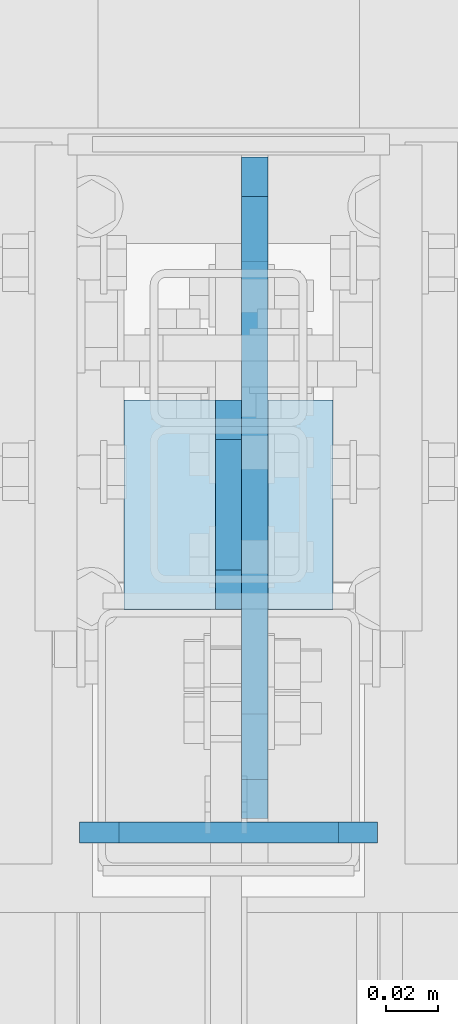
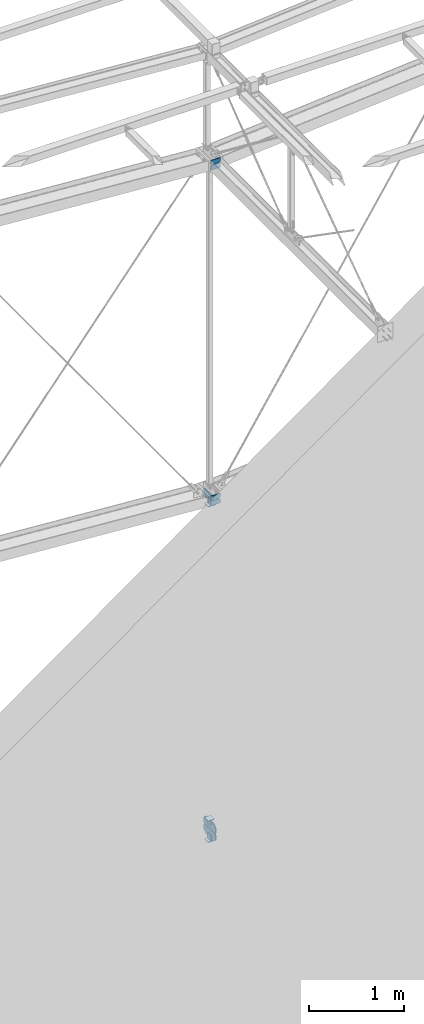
# One storey, part 135 of 271: 13 plates, 5 elements without a shape of their own.
"""IFC2X3 building model written with IfcOpenShell, lengths in millimetres."""

from ifc_helpers import new_model, si_unit, frame, origin_with_axes, place, context, subcontext, project, spatial, polyline, outline, extrude, material, type_object, element, aggregate, save


model = new_model("IFC2X3")

# Units and contexts
model_context = context("Model", 3, precision=1e-05, world=origin_with_axes())
body_context = subcontext(model_context, "Body", "Model", "MODEL_VIEW")
ifc_project = project(units=[si_unit("LENGTHUNIT", "METRE", prefix="MILLI"), si_unit("AREAUNIT", "SQUARE_METRE"), si_unit("VOLUMEUNIT", "CUBIC_METRE"), si_unit("MASSUNIT", "GRAM", prefix="KILO"), si_unit("TIMEUNIT", "SECOND"), si_unit("PLANEANGLEUNIT", "RADIAN"), si_unit("SOLIDANGLEUNIT", "STERADIAN"), si_unit("THERMODYNAMICTEMPERATUREUNIT", "DEGREE_CELSIUS"), si_unit("LUMINOUSINTENSITYUNIT", "LUMEN")], contexts=[model_context])

# Site, building, storey
site_placement = place(None, origin_with_axes())
site = spatial("IfcSite", under=ifc_project, at=site_placement, Name="Undefined", CompositionType="ELEMENT")
building_placement = place(site_placement, origin_with_axes())
building = spatial("IfcBuilding", under=site, at=building_placement, Name="Undefined", CompositionType="ELEMENT")
storey_placement = place(building_placement, origin_with_axes())
storey = spatial("IfcBuildingStorey", under=building, at=storey_placement, Name="Undefined", CompositionType="ELEMENT", Elevation=0.0)

# Assembly, plates
assembly_1_placement = place(storey_placement, origin_with_axes())
assembly_1 = element("IfcElementAssembly", 1, at=assembly_1_placement, inside=storey, AssemblyPlace="NOTDEFINED", PredefinedType="RIGID_FRAME")
ifc_material = material(Name="STEEL/S355JR")
plate_type_1 = type_object("IfcPlateType", Name="BL10*70", PredefinedType="NOTDEFINED")
plate_1_placement = place(assembly_1_placement, frame((6348.37568736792, 3664.92439872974, 14246.5999999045), z_axis=(-1.0, 0.0, 1.38777878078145e-17), x_axis=(0.0, 0.707106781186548, 0.707106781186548)))
plate_1 = element("IfcPlate", 2, at=plate_1_placement, type_object=plate_type_1, material=ifc_material, Name="BLACHA", ObjectType="BL10*70", context=body_context, shape_type="SweptSolid", body=[
    extrude(outline(polyline([(0.0, 0.0), (21.2132034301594, 1.09139364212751e-11), (56.5685424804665, 35.3553390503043), (56.568542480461, 56.5685424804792), (17.6776695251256, 95.4594192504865), (-38.890872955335, 38.8908729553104), (0.0, 0.0)])), frame((0.0, 0.0, -5.0), z_axis=(0.0, 0.0, 1.0), x_axis=(1.0, 0.0, 0.0)), (0.0, 0.0, 1.0), 10.0),
])
plate_2_placement = place(assembly_1_placement, frame((6348.37568736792, 3744.92439872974, 10082.0999999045), z_axis=(-1.0, 0.0, 1.38777878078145e-17), x_axis=(0.0, -0.707106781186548, -0.707106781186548)))
plate_2 = element("IfcPlate", 3, at=plate_2_placement, type_object=plate_type_1, material=ifc_material, Name="BLACHA", ObjectType="BL10*70", context=body_context, shape_type="SweptSolid", body=[
    extrude(outline(polyline([(0.0, 0.0), (21.2132034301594, 1.09139364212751e-11), (56.5685424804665, 35.3553390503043), (56.568542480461, 56.5685424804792), (17.6776695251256, 95.4594192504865), (-38.890872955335, 38.8908729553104), (0.0, 0.0)])), frame((0.0, 0.0, -5.0), z_axis=(0.0, 0.0, 1.0), x_axis=(1.0, 0.0, 0.0)), (0.0, 0.0, 1.0), 10.0),
])

# Assembly, plate
assembly_2_placement = place(storey_placement, origin_with_axes())
assembly_2 = element("IfcElementAssembly", 4, at=assembly_2_placement, inside=storey, AssemblyPlace="NOTDEFINED", PredefinedType="RIGID_FRAME")
plate_3_placement = place(assembly_2_placement, frame((6348.37568736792, 3664.92439872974, 9926.59999990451), z_axis=(-1.0, 0.0, 1.38777878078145e-17), x_axis=(0.0, 0.707106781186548, 0.707106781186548)))
plate_3 = element("IfcPlate", 5, at=plate_3_placement, type_object=plate_type_1, material=ifc_material, Name="BLACHA", ObjectType="BL10*70", context=body_context, shape_type="SweptSolid", body=[
    extrude(outline(polyline([(0.0, 0.0), (21.2132034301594, 1.09139364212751e-11), (56.5685424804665, 35.3553390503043), (56.568542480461, 56.5685424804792), (17.6776695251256, 95.4594192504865), (-38.890872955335, 38.8908729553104), (0.0, 0.0)])), frame((0.0, 0.0, -5.0), z_axis=(0.0, 0.0, 1.0), x_axis=(1.0, 0.0, 0.0)), (0.0, 0.0, 1.0), 10.0),
])

# Plate
plate_type_2 = type_object("IfcPlateType", Name="BL8*80", PredefinedType="NOTDEFINED")
plate_4_placement = place(assembly_1_placement, frame((6388.37568736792, 3664.92439872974, 14187.5999999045), z_axis=(0.0, 0.0, 1.0), x_axis=(0.0, 1.0, 0.0)))
plate_4 = element("IfcPlate", 6, at=plate_4_placement, type_object=plate_type_2, material=ifc_material, Name="BLACHA", ObjectType="BL8*80", context=body_context, shape_type="SweptSolid", body=[
    extrude(outline(polyline([(0.0, 0.0), (80.0, 0.0), (80.0, 80.0), (0.0, 80.0), (0.0, 0.0)])), frame((0.0, 0.0, -4.0), z_axis=(0.0, 0.0, 1.0), x_axis=(1.0, 0.0, 0.0)), (0.0, 0.0, 1.0), 8.0),
])

plate_5_placement = place(assembly_1_placement, frame((6388.37568736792, 3744.92439872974, 10141.0999999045), z_axis=(0.0, 0.0, -1.0), x_axis=(0.0, -1.0, 0.0)))
plate_5 = element("IfcPlate", 7, at=plate_5_placement, type_object=plate_type_2, material=ifc_material, Name="BLACHA", ObjectType="BL8*80", context=body_context, shape_type="SweptSolid", body=[
    extrude(outline(polyline([(0.0, 0.0), (80.0, 0.0), (80.0, 80.0), (0.0, 80.0), (0.0, 0.0)])), frame((0.0, 0.0, -4.0), z_axis=(0.0, 0.0, 1.0), x_axis=(1.0, 0.0, 0.0)), (0.0, 0.0, 1.0), 8.0),
])

aggregate(assembly_1, [plate_4, plate_1, plate_5, plate_2])

plate_6_placement = place(assembly_2_placement, frame((6388.37568736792, 3664.92439872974, 9867.59999990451), z_axis=(0.0, 0.0, 1.0), x_axis=(0.0, 1.0, 0.0)))
plate_6 = element("IfcPlate", 8, at=plate_6_placement, type_object=plate_type_2, material=ifc_material, Name="BLACHA", ObjectType="BL8*80", context=body_context, shape_type="SweptSolid", body=[
    extrude(outline(polyline([(0.0, 0.0), (80.0, 0.0), (80.0, 80.0), (0.0, 80.0), (0.0, 0.0)])), frame((0.0, 0.0, -4.0), z_axis=(0.0, 0.0, 1.0), x_axis=(1.0, 0.0, 0.0)), (0.0, 0.0, 1.0), 8.0),
])

aggregate(assembly_2, [plate_6, plate_3])

# Assembly, plate
assembly_3_placement = place(storey_placement, origin_with_axes())
assembly_3 = element("IfcElementAssembly", 9, at=assembly_3_placement, inside=storey, AssemblyPlace="NOTDEFINED", PredefinedType="RIGID_FRAME")
plate_type_3 = type_object("IfcPlateType", Name="BL10*110", PredefinedType="NOTDEFINED")
plate_7_placement = place(assembly_3_placement, frame((6358.37568736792, 3584.92439872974, 14321.5999999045), z_axis=(-1.0, 0.0, 1.38777878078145e-17), x_axis=(0.0, 1.0, 0.0)))
plate_7 = element("IfcPlate", 10, at=plate_7_placement, type_object=plate_type_3, material=ifc_material, Name="BLACHA", ObjectType="BL10*110", context=body_context, shape_type="SweptSolid", body=[
    extrude(outline(polyline([(0.0, 15.0), (15.0, -1.59872115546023e-14), (238.0, -1.4210854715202e-14), (253.0, 15.0), (253.0, 70.0), (213.0, 110.0), (40.0, 110.0), (0.0, 70.0), (0.0, 15.0)])), frame((0.0, 0.0, -5.0), z_axis=(0.0, 0.0, 1.0), x_axis=(1.0, 0.0, 0.0)), (0.0, 0.0, 1.0), 10.0),
])

# Assembly, plates
assembly_4_placement = place(storey_placement, origin_with_axes())
assembly_4 = element("IfcElementAssembly", 11, at=assembly_4_placement, inside=storey, AssemblyPlace="NOTDEFINED", PredefinedType="RIGID_FRAME")
plate_8_placement = place(assembly_4_placement, frame((6358.37568736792, 3837.92439872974, 10007.0999999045), z_axis=(-1.0, 0.0, 1.38777878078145e-17), x_axis=(0.0, -1.0, 0.0)))
plate_8 = element("IfcPlate", 12, at=plate_8_placement, type_object=plate_type_3, material=ifc_material, Name="BLACHA", ObjectType="BL10*110", context=body_context, shape_type="SweptSolid", body=[
    extrude(outline(polyline([(0.0, 15.0), (15.0, -1.59872115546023e-14), (238.0, -1.4210854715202e-14), (253.0, 15.0), (253.0, 70.0), (213.0, 110.0), (40.0, 110.0), (0.0, 70.0), (0.0, 15.0)])), frame((0.0, 0.0, -5.0), z_axis=(0.0, 0.0, 1.0), x_axis=(1.0, 0.0, 0.0)), (0.0, 0.0, 1.0), 10.0),
])
plate_9_placement = place(assembly_4_placement, frame((6358.37568736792, 3584.92439872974, 10001.5999999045), z_axis=(-1.0, 0.0, 1.38777878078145e-17), x_axis=(0.0, 1.0, 0.0)))
plate_9 = element("IfcPlate", 13, at=plate_9_placement, type_object=plate_type_3, material=ifc_material, Name="BLACHA", ObjectType="BL10*110", context=body_context, shape_type="SweptSolid", body=[
    extrude(outline(polyline([(0.0, 15.0), (15.0, -1.59872115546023e-14), (238.0, -1.4210854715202e-14), (253.0, 15.0), (253.0, 70.0), (213.0, 110.0), (40.0, 110.0), (0.0, 70.0), (0.0, 15.0)])), frame((0.0, 0.0, -5.0), z_axis=(0.0, 0.0, 1.0), x_axis=(1.0, 0.0, 0.0)), (0.0, 0.0, 1.0), 10.0),
])
aggregate(assembly_4, [plate_8, plate_9])

assembly_5_placement = place(storey_placement, origin_with_axes())
assembly_5 = element("IfcElementAssembly", 14, at=assembly_5_placement, inside=storey, AssemblyPlace="NOTDEFINED", PredefinedType="RIGID_FRAME")
plate_type_4 = type_object("IfcPlateType", Name="BL8*60", PredefinedType="NOTDEFINED")
plate_10_placement = place(assembly_5_placement, frame((6291.37568709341, 3579.5985668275, 18581.5999999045), z_axis=(0.0, 1.0, 0.0), x_axis=(0.0, 0.0, 1.0)))
plate_10 = element("IfcPlate", 15, at=plate_10_placement, type_object=plate_type_4, material=ifc_material, Name="BLACHA", ObjectType="BL8*60", context=body_context, shape_type="SweptSolid", body=[
    extrude(outline(polyline([(0.0, 0.0), (45.0, 0.0), (60.0, 15.0), (60.0, 99.0), (45.0, 114.0), (0.0, 114.0), (0.0, 0.0)])), frame((0.0, 0.0, -4.0), z_axis=(0.0, 0.0, 1.0), x_axis=(1.0, 0.0, 0.0)), (0.0, 0.0, 1.0), 8.0),
])
plate_11_placement = place(assembly_5_placement, frame((6291.37568709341, 3579.5985668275, 18707.0999999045), z_axis=(0.0, -1.0, 0.0), x_axis=(0.0, 0.0, -1.0)))
plate_11 = element("IfcPlate", 16, at=plate_11_placement, type_object=plate_type_4, material=ifc_material, Name="BLACHA", ObjectType="BL8*60", context=body_context, shape_type="SweptSolid", body=[
    extrude(outline(polyline([(0.0, 0.0), (45.0, 0.0), (60.0, 15.0), (60.0, 99.0), (45.0, 114.0), (0.0, 114.0), (0.0, 0.0)])), frame((0.0, 0.0, -4.0), z_axis=(0.0, 0.0, 1.0), x_axis=(1.0, 0.0, 0.0)), (0.0, 0.0, 1.0), 8.0),
])
aggregate(assembly_5, [plate_10, plate_11])

# Plate
plate_12_placement = place(assembly_3_placement, frame((6291.37568709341, 3579.5985668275, 14261.5999999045), z_axis=(0.0, 1.0, 0.0), x_axis=(0.0, 0.0, 1.0)))
plate_12 = element("IfcPlate", 17, at=plate_12_placement, type_object=plate_type_4, material=ifc_material, Name="BLACHA", ObjectType="BL8*60", context=body_context, shape_type="SweptSolid", body=[
    extrude(outline(polyline([(0.0, 0.0), (45.0, 0.0), (60.0, 15.0), (60.0, 99.0), (45.0, 114.0), (0.0, 114.0), (0.0, 0.0)])), frame((0.0, 0.0, -4.0), z_axis=(0.0, 0.0, 1.0), x_axis=(1.0, 0.0, 0.0)), (0.0, 0.0, 1.0), 8.0),
])

plate_13_placement = place(assembly_3_placement, frame((6291.37568709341, 3579.5985668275, 14387.0999999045), z_axis=(0.0, -1.0, 0.0), x_axis=(0.0, 0.0, -1.0)))
plate_13 = element("IfcPlate", 18, at=plate_13_placement, type_object=plate_type_4, material=ifc_material, Name="BLACHA", ObjectType="BL8*60", context=body_context, shape_type="SweptSolid", body=[
    extrude(outline(polyline([(0.0, 0.0), (45.0, 0.0), (60.0, 15.0), (60.0, 99.0), (45.0, 114.0), (0.0, 114.0), (0.0, 0.0)])), frame((0.0, 0.0, -4.0), z_axis=(0.0, 0.0, 1.0), x_axis=(1.0, 0.0, 0.0)), (0.0, 0.0, 1.0), 8.0),
])

aggregate(assembly_3, [plate_7, plate_12, plate_13])

save(model, "model.ifc")
